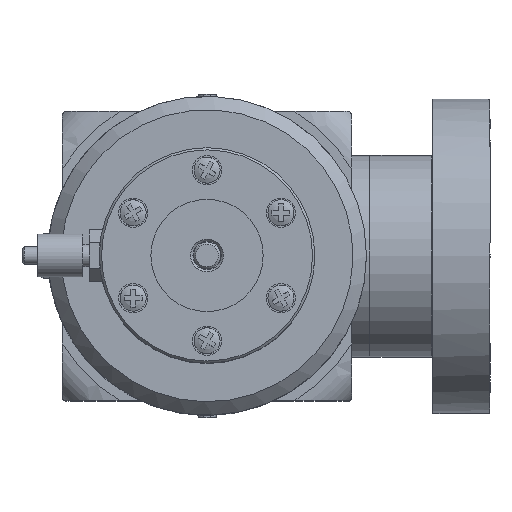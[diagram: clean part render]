
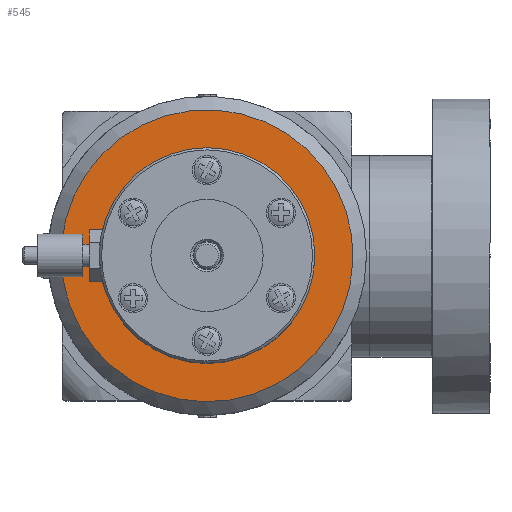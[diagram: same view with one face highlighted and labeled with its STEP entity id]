
A CAD part, top view. The second image highlights one B-rep face of the part: STEP entity #545.
In plain terms, the highlighted planar face has unit normal (0, 0, 1).
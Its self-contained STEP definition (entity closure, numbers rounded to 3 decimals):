
#545 = ADVANCED_FACE( '', ( #1074, #1075 ), #1076, .T. );
#1074 = FACE_OUTER_BOUND( '', #1858, .T. );
#1075 = FACE_BOUND( '', #1859, .T. );
#1076 = PLANE( '', #1860 );
#1858 = EDGE_LOOP( '', ( #2635 ) );
#1859 = EDGE_LOOP( '', ( #2636 ) );
#1860 = AXIS2_PLACEMENT_3D( '', #2637, #2638, #2639 );
#2635 = ORIENTED_EDGE( '', *, *, #3972, .T. );
#2636 = ORIENTED_EDGE( '', *, *, #3973, .T. );
#2637 = CARTESIAN_POINT( '', ( -35.5, 0., 41.5 ) );
#2638 = DIRECTION( '', ( 0., 0., 1. ) );
#2639 = DIRECTION( '', ( 1., 0., 0. ) );
#3972 = EDGE_CURVE( '', #4480, #4480, #4481, .T. );
#3973 = EDGE_CURVE( '', #4482, #4482, #4483, .T. );
#4480 = VERTEX_POINT( '', #5239 );
#4481 = CIRCLE( '', #5240, 32.5 );
#4482 = VERTEX_POINT( '', #5241 );
#4483 = CIRCLE( '', #5242, 8.456 );
#5239 = CARTESIAN_POINT( '', ( 32.5, 0., 41.5 ) );
#5240 = AXIS2_PLACEMENT_3D( '', #6910, #6911, #6912 );
#5241 = CARTESIAN_POINT( '', ( -8.456, 0., 41.5 ) );
#5242 = AXIS2_PLACEMENT_3D( '', #6913, #6914, #6915 );
#6910 = CARTESIAN_POINT( '', ( 0., 0., 41.5 ) );
#6911 = DIRECTION( '', ( 0., 0., 1. ) );
#6912 = DIRECTION( '', ( 1., 0., 0. ) );
#6913 = CARTESIAN_POINT( '', ( 0., 0., 41.5 ) );
#6914 = DIRECTION( '', ( 0., 0., -1. ) );
#6915 = DIRECTION( '', ( -1., 0., 0. ) );
